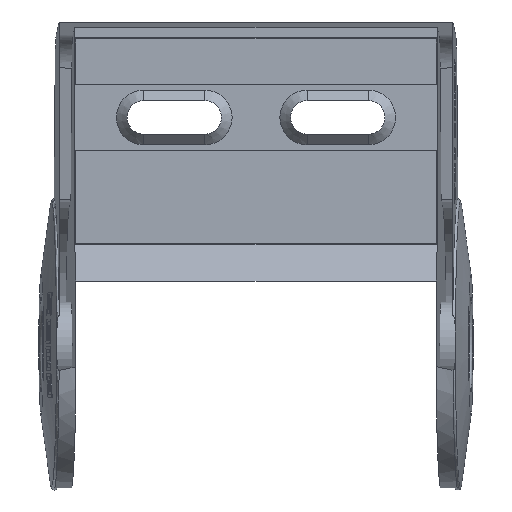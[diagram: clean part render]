
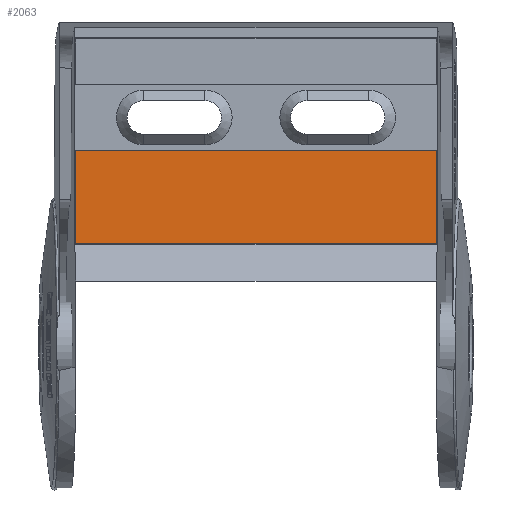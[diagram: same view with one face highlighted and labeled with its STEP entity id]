
A CAD part, front view. The second image highlights one B-rep face of the part: STEP entity #2063.
In plain terms, the highlighted planar face has unit normal (0, -1, 0).
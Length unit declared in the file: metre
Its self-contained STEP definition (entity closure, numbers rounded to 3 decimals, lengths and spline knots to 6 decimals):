
#2024=CARTESIAN_POINT('',(-0.005907,-0.024604,-0.000213));
#2025=DIRECTION('',(0.,-1.,0.));
#2026=DIRECTION('',(0.,0.,-1.));
#2027=AXIS2_PLACEMENT_3D('',#2024,#2025,#2026);
#2028=PLANE('',#2027);
#2029=CARTESIAN_POINT('',(-0.005907,-0.024604,0.090568));
#2030=DIRECTION('',(1.,0.,0.));
#2031=VECTOR('',#2030,1.);
#2032=LINE('',#2029,#2031);
#2033=CARTESIAN_POINT('',(-0.041316,-0.024604,0.090568));
#2034=VERTEX_POINT('',#2033);
#2035=CARTESIAN_POINT('',(0.026638,-0.024604,0.090568));
#2036=VERTEX_POINT('',#2035);
#2037=EDGE_CURVE('',#2034,#2036,#2032,.T.);
#2038=ORIENTED_EDGE('',*,*,#2037,.T.);
#2039=CARTESIAN_POINT('',(0.026638,-0.024604,-0.000213));
#2040=DIRECTION('',(0.,0.,1.));
#2041=VECTOR('',#2040,1.);
#2042=LINE('',#2039,#2041);
#2043=CARTESIAN_POINT('',(0.026638,-0.024604,0.108019));
#2044=VERTEX_POINT('',#2043);
#2045=EDGE_CURVE('',#2036,#2044,#2042,.T.);
#2046=ORIENTED_EDGE('',*,*,#2045,.T.);
#2047=CARTESIAN_POINT('',(-0.005907,-0.024604,0.108019));
#2048=DIRECTION('',(-1.,0.,0.));
#2049=VECTOR('',#2048,1.);
#2050=LINE('',#2047,#2049);
#2051=CARTESIAN_POINT('',(-0.041316,-0.024604,0.108019));
#2052=VERTEX_POINT('',#2051);
#2053=EDGE_CURVE('',#2044,#2052,#2050,.T.);
#2054=ORIENTED_EDGE('',*,*,#2053,.T.);
#2055=CARTESIAN_POINT('',(-0.041316,-0.024604,-0.000213));
#2056=DIRECTION('',(0.,0.,-1.));
#2057=VECTOR('',#2056,1.);
#2058=LINE('',#2055,#2057);
#2059=EDGE_CURVE('',#2052,#2034,#2058,.T.);
#2060=ORIENTED_EDGE('',*,*,#2059,.T.);
#2061=EDGE_LOOP('',(#2038,#2046,#2054,#2060));
#2062=FACE_BOUND('',#2061,.T.);
#2063=ADVANCED_FACE('',(#2062),#2028,.T.);
